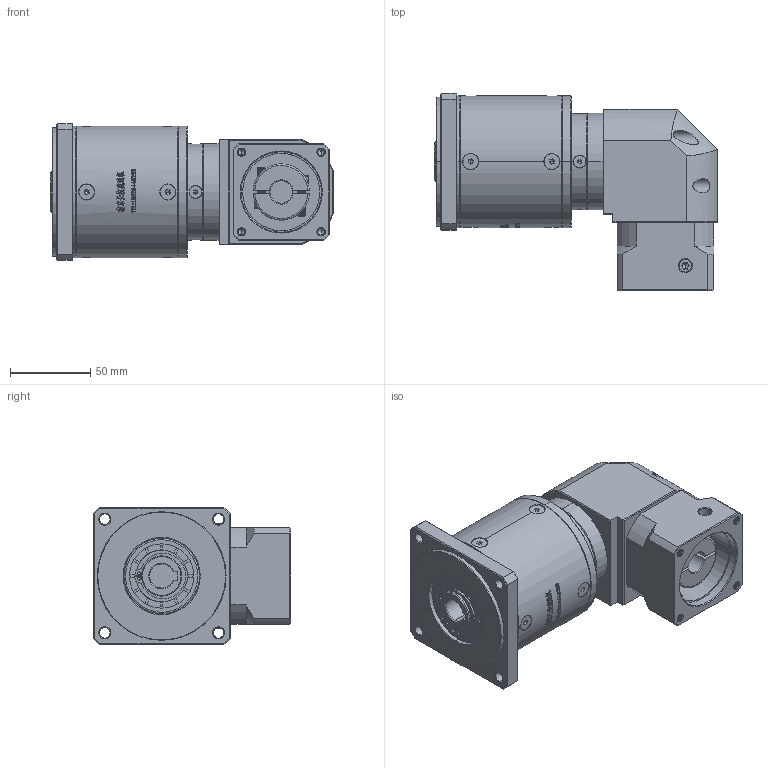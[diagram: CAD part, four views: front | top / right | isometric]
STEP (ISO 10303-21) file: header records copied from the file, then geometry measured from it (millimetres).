
FILE_DESCRIPTION (( 'STEP AP214' ), '1' );
FILE_NAME ('ZFR80-K15-L3-14-50-70-M5.step', '2022-05-08T15:00:55', ( '' ), ( 'Microsoft' ), 'SwSTEP 2.0', 'SolidWorks 2016', '' );
FILE_SCHEMA (( 'AUTOMOTIVE_DESIGN' ));
Length unit declared in the file: millimetre
Products named in the file (1): ZFR80-K15-L3-14-50-70-M5
Bounding box: 176 x 122.7 x 85 mm (x, y, z)
Volume: 870202.7 mm3; surface area: 106366.6 mm2
Topology: 17 solids, 18 shells, 3028 faces, 8066 edges, 5194 vertices
Faces by surface type: plane 1594, bspline 610, cylinder 441, cone 375, torus 8
Entity records: 159765 total; most frequent: CARTESIAN_POINT 56293, ORIENTED_EDGE 16044, DIRECTION 12212, EDGE_CURVE 8022, VERTEX_POINT 5194, VECTOR 4944, LINE 4944, AXIS2_PLACEMENT_3D 3634
